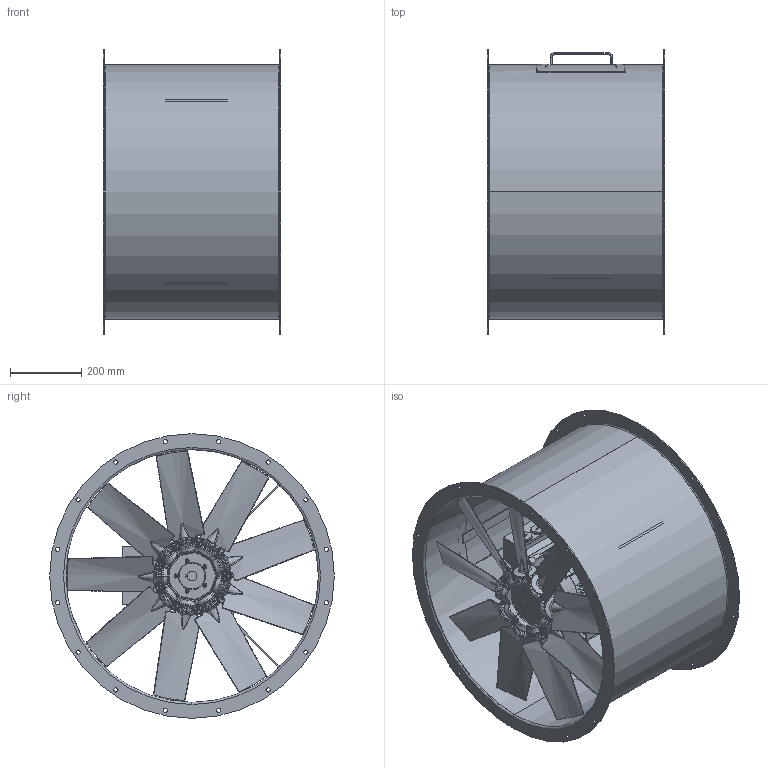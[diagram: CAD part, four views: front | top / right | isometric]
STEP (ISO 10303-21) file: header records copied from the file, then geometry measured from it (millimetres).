
FILE_DESCRIPTION (( 'STEP AP214' ), '1' );
FILE_NAME ('Assem_BRV 710_FF_L=500_mot.112_lang utf.STEP', '2020-09-03T06:57:45', ( '' ), ( '' ), 'SwSTEP 2.0', 'SolidWorks 2016', '' );
FILE_SCHEMA (( 'AUTOMOTIVE_DESIGN' ));
Length unit declared in the file: millimetre
Products named in the file (26): BRV 710_FF_L=500_mot.112_lang utf; M8_C1-1 Bolt And Nuts - 702_9-9_29_PPG_4ZL_28_8_62_A-122724_8; 24000706200 - 702_9-9_29_PPG_4ZL_28_8_62_A-122724; M8_C1-1 Bolt And Nuts - 702_9-9_29_PPG_4ZL_28_8_62_A-122724_5; BB-Bolt-Y62006200040_702_9-9_29_PPG_4ZL_28_8_62_A-122724; M8_C1-1 Bolt And Nuts - 702_9-9_29_PPG_4ZL_28_8_62_A-122724; M8_C1-1 Bolt And Nuts - 702_9-9_29_PPG_4ZL_28_8_62_A-122724_2; Assem_BRV 710_FF_L=500_mot.112_lang utf; M8_C1-1 Bolt And Nuts - 702_9-9_29_PPG_4ZL_28_8_62_A-122724_9; 702_9-9_29_PPG_4ZL_28_8_62_A-122724; M8_C1-1 Bolt And Nuts - 702_9-9_29_PPG_4ZL_28_8_62_A-122724_4; Boss Bolt And Nuts - 702_9-9_29_PPG_4ZL_28_8_62_A-122724_5; Boss Bolt And Nuts - 702_9-9_29_PPG_4ZL_28_8_62_A-122724_3; 1TZ9 C 112M-4 4kW B3 IE3; Boss Bolt And Nuts - 702_9-9_29_PPG_4ZL_28_8_62_A-122724_2; BRV 710 Insp.luke 200x200; C1-1-Bolt-Y62006350040_702_9-9_29_PPG_4ZL_28_8_62_A-122724; 14100100049 - 702_9-9_29_PPG_4ZL_28_8_62_A-122724; 21090708103 - 702_9-9_29_PPG_4ZL_28_8_62_A-122724; M8_C1-1 Bolt And Nuts - 702_9-9_29_PPG_4ZL_28_8_62_A-122724_7; Boss Bolt And Nuts - 702_9-9_29_PPG_4ZL_28_8_62_A-122724_4; M8_C1-1 Bolt And Nuts - 702_9-9_29_PPG_4ZL_28_8_62_A-122724_6; BB-Nut-Y63206000040_702_9-9_29_PPG_4ZL_28_8_62_A-122724; C1-1-Nuts-Y63206000040_702_9-9_29_PPG_4ZL_28_8_62_A-122724; M8_C1-1 Bolt And Nuts - 702_9-9_29_PPG_4ZL_28_8_62_A-122724_3; Boss Bolt And Nuts - 702_9-9_29_PPG_4ZL_28_8_62_A-122724
Assembly tree (58 placements, depth 4):
  Assem_BRV 710_FF_L=500_mot.112_lang utf
    BRV 710_FF_L=500_mot.112_lang utf
    BRV 710 Insp.luke 200x200
    1TZ9 C 112M-4 4kW B3 IE3
    702_9-9_29_PPG_4ZL_28_8_62_A-122724
      21090708103 - 702_9-9_29_PPG_4ZL_28_8_62_A-122724  x2
      14100100049 - 702_9-9_29_PPG_4ZL_28_8_62_A-122724  x9
      24000706200 - 702_9-9_29_PPG_4ZL_28_8_62_A-122724
      Boss Bolt And Nuts - 702_9-9_29_PPG_4ZL_28_8_62_A-122724
        BB-Bolt-Y62006200040_702_9-9_29_PPG_4ZL_28_8_62_A-122724
        BB-Nut-Y63206000040_702_9-9_29_PPG_4ZL_28_8_62_A-122724
      M8_C1-1 Bolt And Nuts - 702_9-9_29_PPG_4ZL_28_8_62_A-122724
        C1-1-Bolt-Y62006350040_702_9-9_29_PPG_4ZL_28_8_62_A-122724
        C1-1-Nuts-Y63206000040_702_9-9_29_PPG_4ZL_28_8_62_A-122724
      Boss Bolt And Nuts - 702_9-9_29_PPG_4ZL_28_8_62_A-122724_2
        BB-Bolt-Y62006200040_702_9-9_29_PPG_4ZL_28_8_62_A-122724
        BB-Nut-Y63206000040_702_9-9_29_PPG_4ZL_28_8_62_A-122724
      Boss Bolt And Nuts - 702_9-9_29_PPG_4ZL_28_8_62_A-122724_3
        BB-Bolt-Y62006200040_702_9-9_29_PPG_4ZL_28_8_62_A-122724
        BB-Nut-Y63206000040_702_9-9_29_PPG_4ZL_28_8_62_A-122724
      Boss Bolt And Nuts - 702_9-9_29_PPG_4ZL_28_8_62_A-122724_4
        BB-Bolt-Y62006200040_702_9-9_29_PPG_4ZL_28_8_62_A-122724
        BB-Nut-Y63206000040_702_9-9_29_PPG_4ZL_28_8_62_A-122724
      Boss Bolt And Nuts - 702_9-9_29_PPG_4ZL_28_8_62_A-122724_5
        BB-Bolt-Y62006200040_702_9-9_29_PPG_4ZL_28_8_62_A-122724
        BB-Nut-Y63206000040_702_9-9_29_PPG_4ZL_28_8_62_A-122724
      M8_C1-1 Bolt And Nuts - 702_9-9_29_PPG_4ZL_28_8_62_A-122724_2
        C1-1-Bolt-Y62006350040_702_9-9_29_PPG_4ZL_28_8_62_A-122724
        C1-1-Nuts-Y63206000040_702_9-9_29_PPG_4ZL_28_8_62_A-122724
      M8_C1-1 Bolt And Nuts - 702_9-9_29_PPG_4ZL_28_8_62_A-122724_3
        C1-1-Bolt-Y62006350040_702_9-9_29_PPG_4ZL_28_8_62_A-122724
        C1-1-Nuts-Y63206000040_702_9-9_29_PPG_4ZL_28_8_62_A-122724
      M8_C1-1 Bolt And Nuts - 702_9-9_29_PPG_4ZL_28_8_62_A-122724_4
        C1-1-Bolt-Y62006350040_702_9-9_29_PPG_4ZL_28_8_62_A-122724
        C1-1-Nuts-Y63206000040_702_9-9_29_PPG_4ZL_28_8_62_A-122724
      M8_C1-1 Bolt And Nuts - 702_9-9_29_PPG_4ZL_28_8_62_A-122724_5
        C1-1-Bolt-Y62006350040_702_9-9_29_PPG_4ZL_28_8_62_A-122724
        C1-1-Nuts-Y63206000040_702_9-9_29_PPG_4ZL_28_8_62_A-122724
      M8_C1-1 Bolt And Nuts - 702_9-9_29_PPG_4ZL_28_8_62_A-122724_6
        C1-1-Bolt-Y62006350040_702_9-9_29_PPG_4ZL_28_8_62_A-122724
        C1-1-Nuts-Y63206000040_702_9-9_29_PPG_4ZL_28_8_62_A-122724
      M8_C1-1 Bolt And Nuts - 702_9-9_29_PPG_4ZL_28_8_62_A-122724_7
        C1-1-Bolt-Y62006350040_702_9-9_29_PPG_4ZL_28_8_62_A-122724
        C1-1-Nuts-Y63206000040_702_9-9_29_PPG_4ZL_28_8_62_A-122724
      M8_C1-1 Bolt And Nuts - 702_9-9_29_PPG_4ZL_28_8_62_A-122724_8
        C1-1-Bolt-Y62006350040_702_9-9_29_PPG_4ZL_28_8_62_A-122724
        C1-1-Nuts-Y63206000040_702_9-9_29_PPG_4ZL_28_8_62_A-122724
      M8_C1-1 Bolt And Nuts - 702_9-9_29_PPG_4ZL_28_8_62_A-122724_9
        C1-1-Bolt-Y62006350040_702_9-9_29_PPG_4ZL_28_8_62_A-122724
        C1-1-Nuts-Y63206000040_702_9-9_29_PPG_4ZL_28_8_62_A-122724
Bounding box: 500 x 800 x 800 mm (x, y, z)
Volume: 20077355.6 mm3; surface area: 4359948.9 mm2
Topology: 45 solids, 45 shells, 3733 faces, 9175 edges, 5562 vertices
Faces by surface type: bspline 1686, plane 820, cylinder 607, cone 604, torus 16
Entity records: 80171 total; most frequent: CARTESIAN_POINT 39282, ORIENTED_EDGE 9414, DIRECTION 7037, EDGE_CURVE 4707, VERTEX_POINT 2941, AXIS2_PLACEMENT_3D 2691, EDGE_LOOP 1998, FACE_OUTER_BOUND 1826
